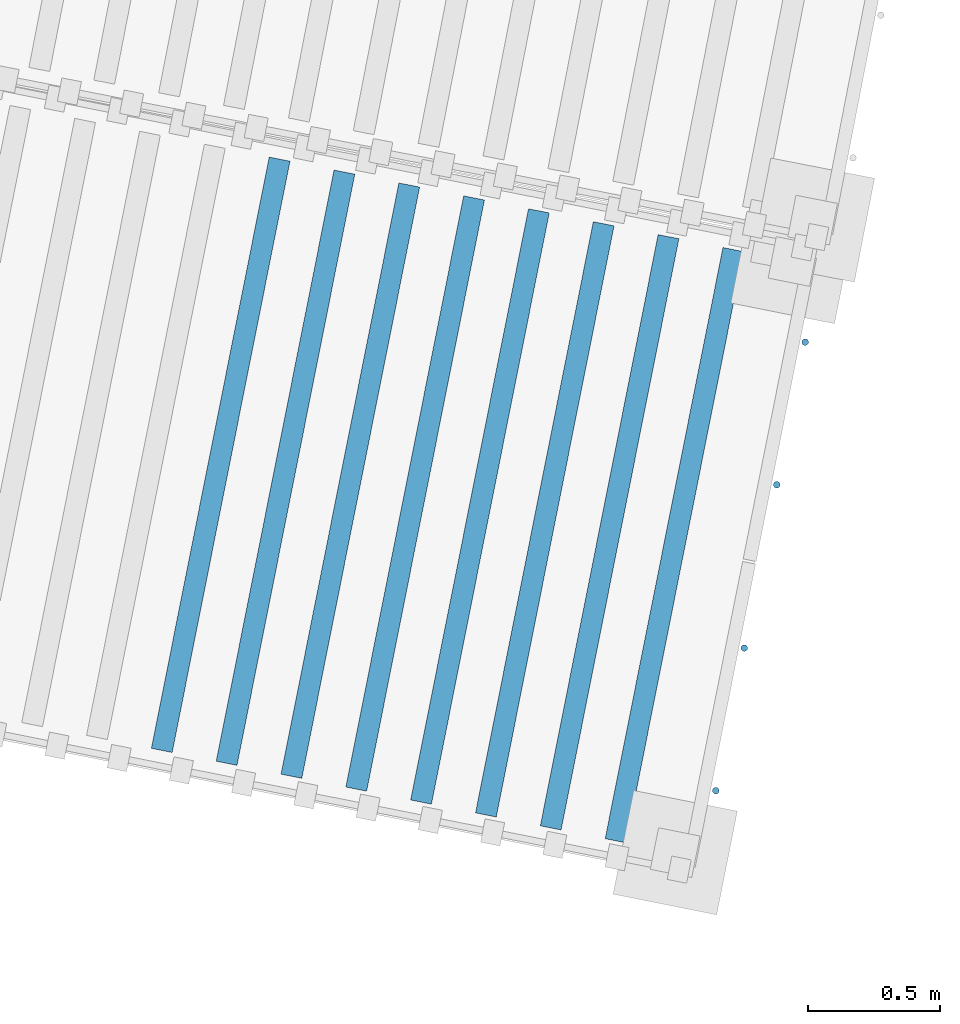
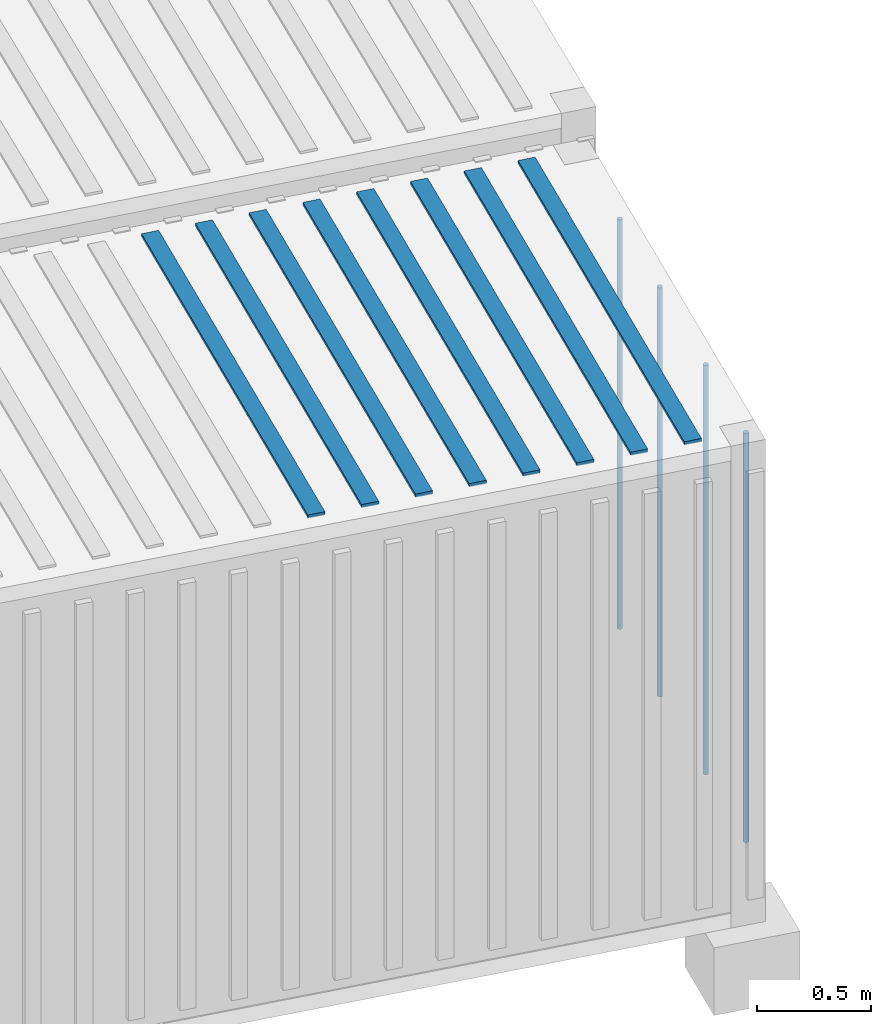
# One storey, part 24 of 131: 12 members, 1 element without a shape of its own.
"""IFC4 building model written with IfcOpenShell, lengths in metres."""

from ifc_helpers import new_model, si_unit, direction, frame, origin_with_axes, place, context, subcontext, project, spatial, polyline, circle, outline, extrude, material, material_profile, profile_set, profile_usage, type_object, element, aggregate, save


model = new_model("IFC4")

# Units and contexts
model_context = context("Model", 3, precision=1e-05, world=origin_with_axes(), true_north=direction((0.0, 1.0)))
body_context = subcontext(model_context, "Body", "Model", "MODEL_VIEW")
ifc_project = project(units=[si_unit("AREAUNIT", "SQUARE_METRE"), si_unit("VOLUMEUNIT", "CUBIC_METRE"), si_unit("LENGTHUNIT", "METRE")], contexts=[model_context])

# Site, building, storey
site_placement = place(None, origin_with_axes())
site = spatial("IfcSite", under=ifc_project, at=site_placement, Name="Lares · Rua das Mercês · artigo 4771")
building_placement = place(site_placement, frame((15.0, 9.7, 14.65), z_axis=(0.0, 0.0, 1.0), x_axis=(0.989015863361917, -0.147809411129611, 0.0)))
building = spatial("IfcBuilding", under=site, at=building_placement, Name="Casa Sobreposta")
storey_placement = place(building_placement, origin_with_axes())
storey = spatial("IfcBuildingStorey", under=building, at=storey_placement, Name="00 · Habitação e estacionamento", Elevation=14.65)

# Assembly, members
assembly_placement = place(storey_placement, frame((-14.5932944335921, 6.63122214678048, 0.0), z_axis=(0.0, 0.0, 1.0), x_axis=(0.998832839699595, -0.0483007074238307, 0.0)))
assembly = element("IfcElementAssembly", 1, at=assembly_placement, inside=storey, Name="Contentor existente 2 · 6 m", ObjectType="EXISTING_SHIPPING_CONTAINER", PredefinedType="USERDEFINED")
ifc_material_1 = material(Name="Aço galvanizado / Stahl verzinkt", Category="steel")
ifc_material_profile = material_profile(ifc_material_1, circle(Radius=0.0125))
ifc_profile_set = profile_set([ifc_material_profile], Name="D0.025")
ifc_profile_usage_1 = profile_usage(ifc_profile_set)
member_type = type_object("IfcMemberType", Name="D0.025 / galvanized", PredefinedType="NOTDEFINED", material=ifc_profile_set)
member_1_placement = place(assembly_placement, frame((6.025, 0.34, -0.968751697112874), z_axis=(0.0, 0.0, 1.0), x_axis=(1.0, 0.0, 0.0)))
member_1 = element("IfcMember", 2, at=member_1_placement, type_object=member_type, material=ifc_profile_usage_1, Name="Contentor · varão de fecho", context=body_context, shape_type="SweptSolid", body=[
    extrude(circle(Radius=0.0125), origin_with_axes(), (0.0, 0.0, 1.0), 2.2),
])
ifc_profile_usage_2 = profile_usage(ifc_profile_set)
member_2_placement = place(assembly_placement, frame((6.025, 0.89, -0.968751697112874), z_axis=(0.0, 0.0, 1.0), x_axis=(1.0, 0.0, 0.0)))
member_2 = element("IfcMember", 3, at=member_2_placement, type_object=member_type, material=ifc_profile_usage_2, Name="Contentor · varão de fecho", context=body_context, shape_type="SweptSolid", body=[
    extrude(circle(Radius=0.0125), origin_with_axes(), (0.0, 0.0, 1.0), 2.2),
])
ifc_profile_usage_3 = profile_usage(ifc_profile_set)
member_3_placement = place(assembly_placement, frame((6.025, 1.52, -0.968751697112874), z_axis=(0.0, 0.0, 1.0), x_axis=(1.0, 0.0, 0.0)))
member_3 = element("IfcMember", 4, at=member_3_placement, type_object=member_type, material=ifc_profile_usage_3, Name="Contentor · varão de fecho", context=body_context, shape_type="SweptSolid", body=[
    extrude(circle(Radius=0.0125), origin_with_axes(), (0.0, 0.0, 1.0), 2.2),
])
ifc_profile_usage_4 = profile_usage(ifc_profile_set)
member_4_placement = place(assembly_placement, frame((6.025, 2.07, -0.968751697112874), z_axis=(0.0, 0.0, 1.0), x_axis=(1.0, 0.0, 0.0)))
member_4 = element("IfcMember", 5, at=member_4_placement, type_object=member_type, material=ifc_profile_usage_4, Name="Contentor · varão de fecho", context=body_context, shape_type="SweptSolid", body=[
    extrude(circle(Radius=0.0125), origin_with_axes(), (0.0, 0.0, 1.0), 2.2),
])
ifc_material_2 = material(Name="Contentor · pintura 2", Category="steel")
member_5_placement = place(assembly_placement, frame((0.0, 0.0, 1.41624830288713), z_axis=(0.0, 0.0, 1.0), x_axis=(1.0, 0.0, 0.0)))
member_5 = element("IfcMember", 6, at=member_5_placement, material=ifc_material_2, Name="Contentor · nervura cobertura", context=body_context, shape_type="SweptSolid", body=[
    extrude(outline(polyline([(3.98, 0.08), (3.98, 2.36), (3.9, 2.36), (3.9, 0.08), (3.98, 0.08)])), origin_with_axes(), (0.0, 0.0, 1.0), 0.018),
])
member_6_placement = place(assembly_placement, frame((0.0, 0.0, 1.41624830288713), z_axis=(0.0, 0.0, 1.0), x_axis=(1.0, 0.0, 0.0)))
member_6 = element("IfcMember", 7, at=member_6_placement, material=ifc_material_2, Name="Contentor · nervura cobertura", context=body_context, shape_type="SweptSolid", body=[
    extrude(outline(polyline([(4.23, 0.08), (4.23, 2.36), (4.15, 2.36), (4.15, 0.08), (4.23, 0.08)])), origin_with_axes(), (0.0, 0.0, 1.0), 0.018),
])
member_7_placement = place(assembly_placement, frame((0.0, 0.0, 1.41624830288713), z_axis=(0.0, 0.0, 1.0), x_axis=(1.0, 0.0, 0.0)))
member_7 = element("IfcMember", 8, at=member_7_placement, material=ifc_material_2, Name="Contentor · nervura cobertura", context=body_context, shape_type="SweptSolid", body=[
    extrude(outline(polyline([(4.48, 0.08), (4.48, 2.36), (4.4, 2.36), (4.4, 0.08), (4.48, 0.08)])), origin_with_axes(), (0.0, 0.0, 1.0), 0.018),
])
member_8_placement = place(assembly_placement, frame((0.0, 0.0, 1.41624830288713), z_axis=(0.0, 0.0, 1.0), x_axis=(1.0, 0.0, 0.0)))
member_8 = element("IfcMember", 9, at=member_8_placement, material=ifc_material_2, Name="Contentor · nervura cobertura", context=body_context, shape_type="SweptSolid", body=[
    extrude(outline(polyline([(4.73, 0.08), (4.73, 2.36), (4.65, 2.36), (4.65, 0.08), (4.73, 0.08)])), origin_with_axes(), (0.0, 0.0, 1.0), 0.018),
])
member_9_placement = place(assembly_placement, frame((0.0, 0.0, 1.41624830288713), z_axis=(0.0, 0.0, 1.0), x_axis=(1.0, 0.0, 0.0)))
member_9 = element("IfcMember", 10, at=member_9_placement, material=ifc_material_2, Name="Contentor · nervura cobertura", context=body_context, shape_type="SweptSolid", body=[
    extrude(outline(polyline([(4.98, 0.08), (4.98, 2.36), (4.9, 2.36), (4.9, 0.08), (4.98, 0.08)])), origin_with_axes(), (0.0, 0.0, 1.0), 0.018),
])
member_10_placement = place(assembly_placement, frame((0.0, 0.0, 1.41624830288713), z_axis=(0.0, 0.0, 1.0), x_axis=(1.0, 0.0, 0.0)))
member_10 = element("IfcMember", 11, at=member_10_placement, material=ifc_material_2, Name="Contentor · nervura cobertura", context=body_context, shape_type="SweptSolid", body=[
    extrude(outline(polyline([(5.23, 0.08), (5.23, 2.36), (5.15, 2.36), (5.15, 0.08), (5.23, 0.08)])), origin_with_axes(), (0.0, 0.0, 1.0), 0.018),
])
member_11_placement = place(assembly_placement, frame((0.0, 0.0, 1.41624830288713), z_axis=(0.0, 0.0, 1.0), x_axis=(1.0, 0.0, 0.0)))
member_11 = element("IfcMember", 12, at=member_11_placement, material=ifc_material_2, Name="Contentor · nervura cobertura", context=body_context, shape_type="SweptSolid", body=[
    extrude(outline(polyline([(5.48, 0.08), (5.48, 2.36), (5.4, 2.36), (5.4, 0.08), (5.48, 0.08)])), origin_with_axes(), (0.0, 0.0, 1.0), 0.018),
])
member_12_placement = place(assembly_placement, frame((0.0, 0.0, 1.41624830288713), z_axis=(0.0, 0.0, 1.0), x_axis=(1.0, 0.0, 0.0)))
member_12 = element("IfcMember", 13, at=member_12_placement, material=ifc_material_2, Name="Contentor · nervura cobertura", context=body_context, shape_type="SweptSolid", body=[
    extrude(outline(polyline([(5.73, 0.08), (5.73, 2.36), (5.65, 2.36), (5.65, 0.08), (5.73, 0.08)])), origin_with_axes(), (0.0, 0.0, 1.0), 0.018),
])
aggregate(assembly, [member_1, member_2, member_3, member_4, member_5, member_6, member_7, member_8, member_9, member_10, member_11, member_12])

save(model, "model.ifc")
